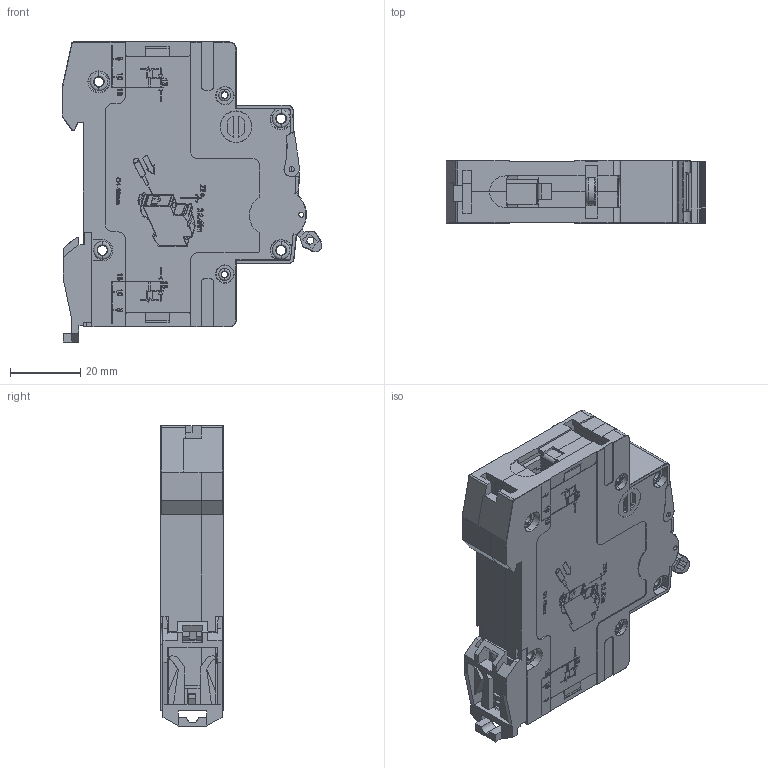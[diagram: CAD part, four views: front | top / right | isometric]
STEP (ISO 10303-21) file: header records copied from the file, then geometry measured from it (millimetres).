
FILE_DESCRIPTION (( 'STEP AP214' ), '1' );
FILE_NAME ('TDZ-1B-4.STEP', '2026-04-30T12:46:52', ( '' ), ( '' ), 'SwSTEP 2.0', 'SolidWorks 2025', '' );
FILE_SCHEMA (( 'AUTOMOTIVE_DESIGN' ));
Length unit declared in the file: millimetre
Products named in the file (1): TDZ-1B-4
Bounding box: 73.85 x 17.8 x 85.3 mm (x, y, z)
Volume: 30480.2 mm3; surface area: 48197.3 mm2
Topology: 21 solids, 21 shells, 4137 faces, 11936 edges, 8053 vertices
Faces by surface type: plane 2533, cylinder 994, bspline 403, torus 161, cone 46
Entity records: 210676 total; most frequent: CARTESIAN_POINT 60798, ORIENTED_EDGE 23848, DIRECTION 19595, EDGE_CURVE 11924, VERTEX_POINT 8053, LINE 7959, VECTOR 7959, AXIS2_PLACEMENT_3D 5818
